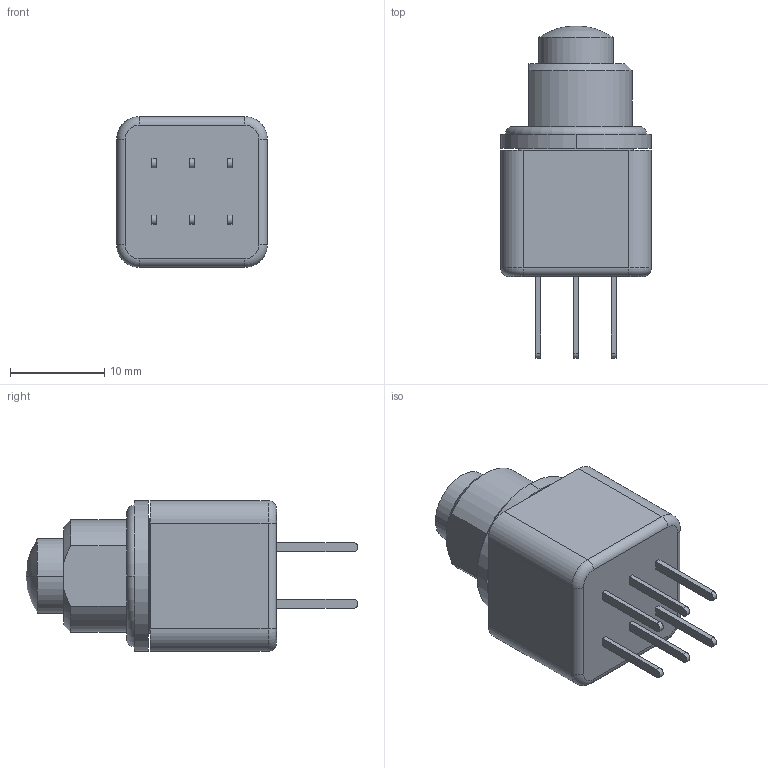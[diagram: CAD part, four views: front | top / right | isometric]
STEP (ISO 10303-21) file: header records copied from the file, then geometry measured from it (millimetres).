
FILE_DESCRIPTION((''),'2;1');
FILE_NAME('13245-4X778','2014-12-17T',('brevel'),(''),'PRO/ENGINEER BY PARAMETRIC TECHNOLOGY CORPORATION, 2013410','PRO/ENGINEER BY PARAMETRIC TECHNOLOGY CORPORATION, 2013410','');
FILE_SCHEMA(('CONFIG_CONTROL_DESIGN'));
Length unit declared in the file: millimetre
Products named in the file (1): 13245-4X778
Bounding box: 16 x 35.25 x 16 mm (x, y, z)
Volume: 4653.5 mm3; surface area: 2483.1 mm2
Topology: 1 solids, 2 shells, 99 faces, 221 edges, 137 vertices
Faces by surface type: plane 41, cylinder 35, cone 9, torus 8, sphere 6
Entity records: 2770 total; most frequent: DIRECTION 512, CARTESIAN_POINT 461, ORIENTED_EDGE 434, EDGE_CURVE 217, AXIS2_PLACEMENT_3D 198, VERTEX_POINT 137, VECTOR 116, LINE 116
